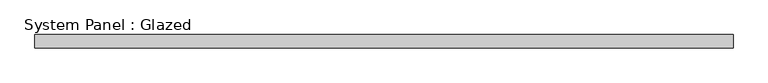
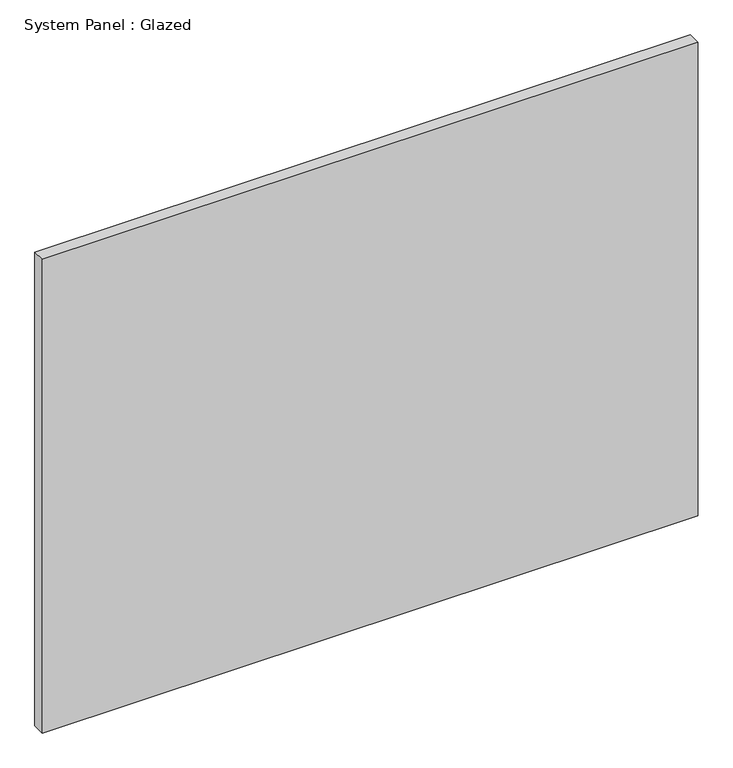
"""IFC4 building model written with IfcOpenShell, lengths in millimetres: plate geometry, System Panel : Glazed."""

from ifc_helpers import new_model, si_unit, origin, origin_with_axes, place, context, project, spatial, polyline, outline, extrude, source, transform, mapped, element, save


def system_panel_glazed_4de0baa6(model_context):
    return source(origin(), model_context, "Body", "SweptSolid", [
        extrude(outline(polyline([(655.4238159, 19.05), (-655.4238159, 19.05), (-655.4238159, 44.45), (655.4238159, 44.45), (655.4238159, 19.05)])), origin_with_axes(), (0.0, 0.0, 1.0), 1000.6193103),
    ])


if __name__ == "__main__":
    model = new_model("IFC4")
    model_context = context("Model", 3, world=origin())
    ifc_project = project(units=[si_unit("LENGTHUNIT", "METRE", prefix="MILLI")], contexts=[model_context])
    site = spatial("IfcSite", under=ifc_project)
    building = spatial("IfcBuilding", under=site)
    placement = place(None, origin())
    system_panel_glazed_shape = system_panel_glazed_4de0baa6(model_context)
    element("IfcPlate", 1, ObjectType="System Panel : Glazed", at=placement, inside=building, context=model_context, shape_type="MappedRepresentation", body=[
        mapped(system_panel_glazed_shape, transform((0.0, 0.0, 0.0), x_axis=(1.0, 0.0, 0.0), y_axis=(0.0, 1.0, 0.0), z_axis=(0.0, 0.0, 1.0))),
    ])
    save(model, "model.ifc")
